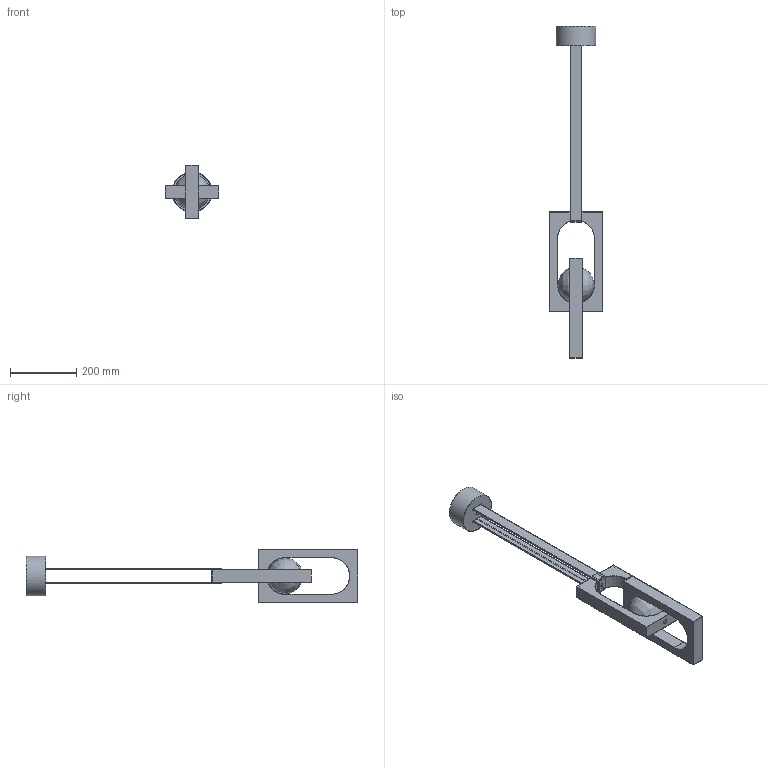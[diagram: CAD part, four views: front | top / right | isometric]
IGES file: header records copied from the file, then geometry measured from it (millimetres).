
Global section: file name: MYTHOS DUO PENDANT; native system: Autodesk Inventor 2023; preprocessor: unknown; author: Peter Larkam; date: 20240715.140918; units: millimetre
Bounding box: 160 x 1000 x 160 mm (x, y, z)
Volume: 595897.6 mm3; surface area: 797058.4 mm2
Topology: 10 solids, 10 shells, 295 faces, 720 edges, 443 vertices
Faces by surface type: bspline 295
